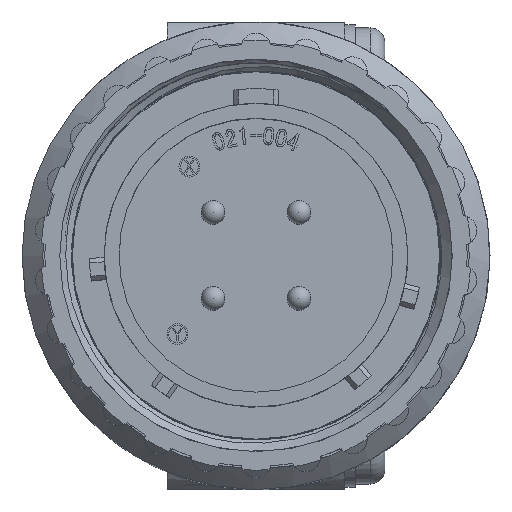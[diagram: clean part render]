
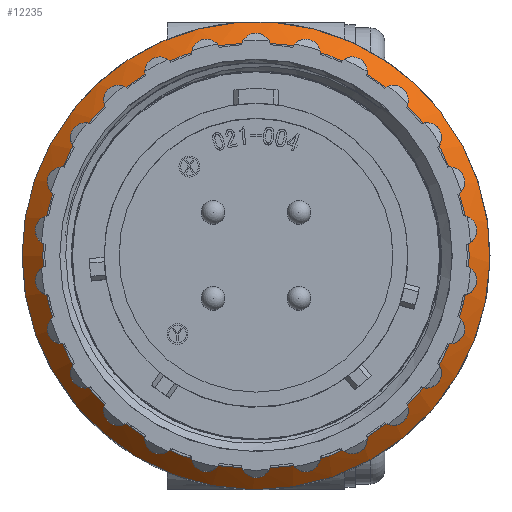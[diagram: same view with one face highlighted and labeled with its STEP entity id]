
A CAD part, top view. The second image highlights one B-rep face of the part: STEP entity #12235.
In plain terms, the highlighted conical face has half-angle 45 degrees and reference radius 15.8 mm.
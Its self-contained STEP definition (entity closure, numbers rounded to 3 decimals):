
#78 = AXIS2_PLACEMENT_3D ( 'NONE', #11417, #27435, #30014 ) ;
#220 = ORIENTED_EDGE ( 'NONE', *, *, #12865, .T. ) ;
#1678 = DIRECTION ( 'NONE',  ( -1., 0., 0. ) ) ;
#7102 = CIRCLE ( 'NONE', #29835, 15.8 ) ;
#7184 = DIRECTION ( 'NONE',  ( -1., 0., 0. ) ) ;
#8508 = VERTEX_POINT ( 'NONE', #24971 ) ;
#10199 = DIRECTION ( 'NONE',  ( 0., 0., -1. ) ) ;
#11417 = CARTESIAN_POINT ( 'NONE',  ( 0., 0., -20.7 ) ) ;
#12021 = AXIS2_PLACEMENT_3D ( 'NONE', #20466, #10199, #1678 ) ;
#12235 = ADVANCED_FACE ( 'NONE', ( #23156, #31607 ), #18537, .T. ) ;
#12865 = EDGE_CURVE ( 'NONE', #8508, #8508, #7102, .T. ) ;
#12996 = EDGE_LOOP ( 'NONE', ( #220 ) ) ;
#15367 = DIRECTION ( 'NONE',  ( 0., 0., 1. ) ) ;
#16197 = ORIENTED_EDGE ( 'NONE', *, *, #20931, .F. ) ;
#18537 = CONICAL_SURFACE ( 'NONE', #12021, 15.8, 0.785 ) ;
#18609 = VERTEX_POINT ( 'NONE', #22363 ) ;
#20466 = CARTESIAN_POINT ( 'NONE',  ( 0., 0., -22.1 ) ) ;
#20657 = CARTESIAN_POINT ( 'NONE',  ( 0., 0., -22.1 ) ) ;
#20931 = EDGE_CURVE ( 'NONE', #18609, #18609, #21461, .T. ) ;
#21461 = CIRCLE ( 'NONE', #78, 14.4 ) ;
#22363 = CARTESIAN_POINT ( 'NONE',  ( -14.4, 0., -20.7 ) ) ;
#23156 = FACE_OUTER_BOUND ( 'NONE', #12996, .T. ) ;
#24971 = CARTESIAN_POINT ( 'NONE',  ( -15.8, 0., -22.1 ) ) ;
#26618 = EDGE_LOOP ( 'NONE', ( #16197 ) ) ;
#27435 = DIRECTION ( 'NONE',  ( 0., 0., 1. ) ) ;
#29835 = AXIS2_PLACEMENT_3D ( 'NONE', #20657, #15367, #7184 ) ;
#30014 = DIRECTION ( 'NONE',  ( -1., 0., 0. ) ) ;
#31607 = FACE_BOUND ( 'NONE', #26618, .T. ) ;
